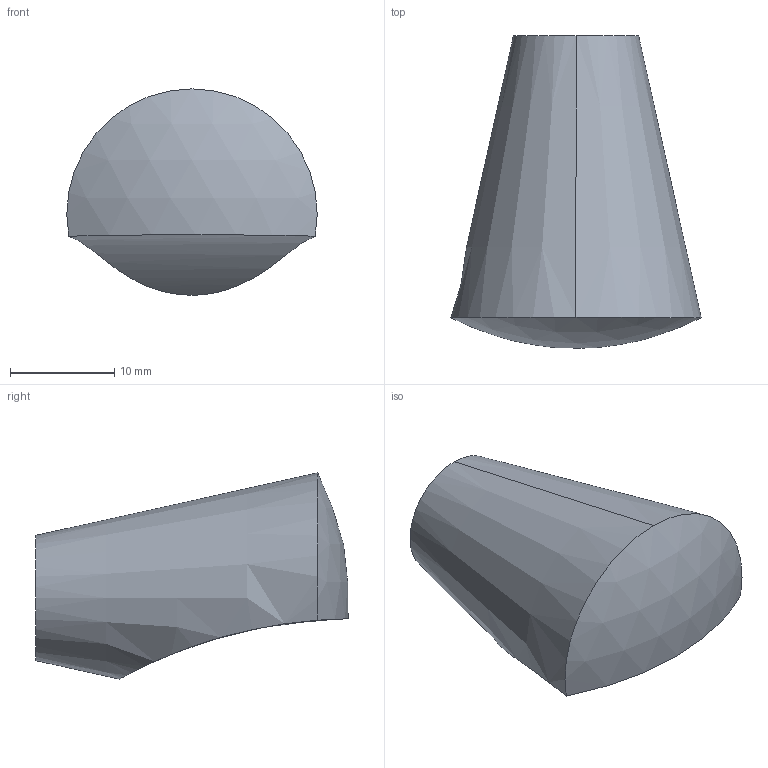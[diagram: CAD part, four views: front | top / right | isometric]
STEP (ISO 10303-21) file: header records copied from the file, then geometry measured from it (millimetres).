
FILE_DESCRIPTION( ( '' ), '1' );
FILE_NAME( 'C:/Documents and Settings/Nikhil/Desktop/Nik/Done/9071857.stp', '2013-10-23T11:19:20', ( '' ), ( '' ), ' ', ' ', ' ' );
FILE_SCHEMA( ( 'automotive_design' ) );
Length unit declared in the file: millimetre
Products named in the file (1): 1
Bounding box: 24 x 29.92 x 19.78 mm (x, y, z)
Volume: 5921.1 mm3; surface area: 2025.1 mm2
Topology: 1 solids, 1 shells, 8 faces, 15 edges, 10 vertices
Faces by surface type: cylinder 3, cone 2, plane 2, sphere 1
Entity records: 478 total; most frequent: CARTESIAN_POINT 98, DIRECTION 38, STYLED_ITEM 34, PRESENTATION_STYLE_ASSIGNMENT 34, COLOUR_RGB 34, ORIENTED_EDGE 30, AXIS2_PLACEMENT_3D 17, EDGE_CURVE 15
